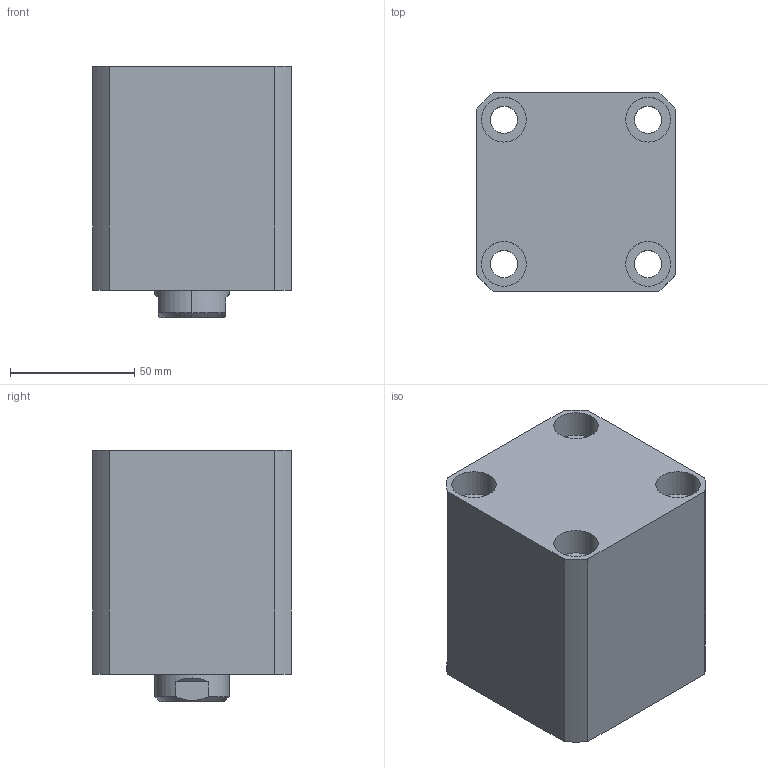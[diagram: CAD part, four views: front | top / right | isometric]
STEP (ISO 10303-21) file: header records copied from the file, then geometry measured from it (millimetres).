
FILE_DESCRIPTION (( 'STEP AP203' ), '1' );
FILE_NAME ('CHTB-SDMA50-30N.STEP', '2018-05-19T01:42:25', ( '' ), ( '' ), 'SwSTEP 2.0', 'SolidWorks 2015', '' );
FILE_SCHEMA (( 'CONFIG_CONTROL_DESIGN' ));
Length unit declared in the file: millimetre
Products named in the file (5): 活塞杆SDMA50-25N; CHTM-SDMA50QG; 掛极SDMA50-30N; M6; CHTB-SDMA50-30N
Assembly tree (5 placements, depth 2):
  CHTB-SDMA50-30N
    掛极SDMA50-30N
    CHTM-SDMA50QG
    M6  x2
    活塞杆SDMA50-25N
Bounding box: 80 x 80 x 101 mm (x, y, z)
Volume: 475524.2 mm3; surface area: 100313.7 mm2
Topology: 5 solids, 5 shells, 270 faces, 703 edges, 464 vertices
Faces by surface type: cylinder 139, plane 58, cone 31, bspline 26, torus 16
Entity records: 14133 total; most frequent: CARTESIAN_POINT 8131, ORIENTED_EDGE 1208, DIRECTION 1054, EDGE_CURVE 604, AXIS2_PLACEMENT_3D 433, VERTEX_POINT 403, EDGE_LOOP 277, ADVANCED_FACE 235
